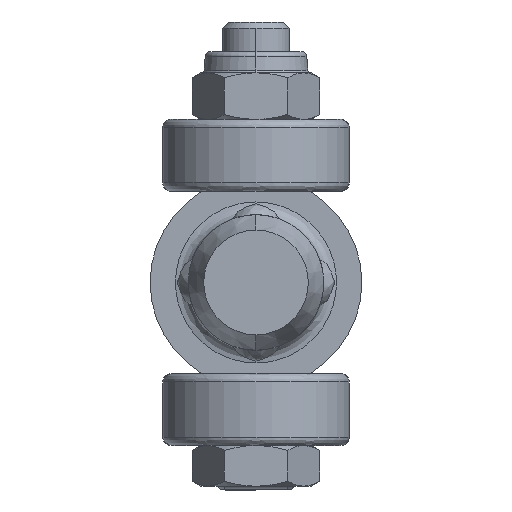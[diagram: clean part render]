
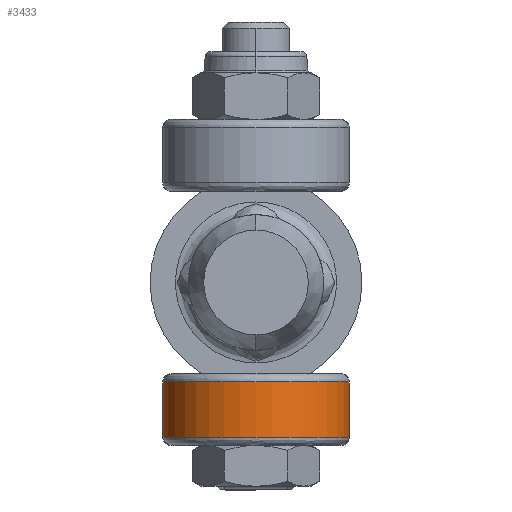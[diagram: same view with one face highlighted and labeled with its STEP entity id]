
A CAD part, front view. The second image highlights one B-rep face of the part: STEP entity #3433.
In plain terms, the highlighted cylindrical face has radius 11 mm (diameter 22 mm), a partial arc.
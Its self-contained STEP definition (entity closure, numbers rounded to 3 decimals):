
#195 = DIRECTION ( 'NONE',  ( 0., 0., 1. ) ) ;
#305 = LINE ( 'NONE', #1693, #9067 ) ;
#495 = ORIENTED_EDGE ( 'NONE', *, *, #3231, .T. ) ;
#740 = CIRCLE ( 'NONE', #5758, 11. ) ;
#1693 = CARTESIAN_POINT ( 'NONE',  ( 0., 10.75, 11. ) ) ;
#1717 = DIRECTION ( 'NONE',  ( 0., 1., 0. ) ) ;
#2405 = EDGE_CURVE ( 'NONE', #4975, #8073, #740, .T. ) ;
#2619 = EDGE_LOOP ( 'NONE', ( #5729, #495, #4439, #5843 ) ) ;
#2656 = CARTESIAN_POINT ( 'NONE',  ( 0., 11.75, 11. ) ) ;
#3084 = CARTESIAN_POINT ( 'NONE',  ( 0., 18.25, -11. ) ) ;
#3231 = EDGE_CURVE ( 'NONE', #4488, #5892, #8461, .T. ) ;
#3433 = ADVANCED_FACE ( 'NONE', ( #3955 ), #8112, .T. ) ;
#3866 = DIRECTION ( 'NONE',  ( 0., 1., 0. ) ) ;
#3955 = FACE_OUTER_BOUND ( 'NONE', #2619, .T. ) ;
#4439 = ORIENTED_EDGE ( 'NONE', *, *, #9037, .T. ) ;
#4488 = VERTEX_POINT ( 'NONE', #10316 ) ;
#4559 = CARTESIAN_POINT ( 'NONE',  ( 0., 10.75, -11. ) ) ;
#4866 = CARTESIAN_POINT ( 'NONE',  ( 0., 18.25, 0. ) ) ;
#4975 = VERTEX_POINT ( 'NONE', #7190 ) ;
#5729 = ORIENTED_EDGE ( 'NONE', *, *, #10047, .F. ) ;
#5758 = AXIS2_PLACEMENT_3D ( 'NONE', #4866, #8308, #8076 ) ;
#5843 = ORIENTED_EDGE ( 'NONE', *, *, #2405, .T. ) ;
#5892 = VERTEX_POINT ( 'NONE', #2656 ) ;
#6210 = VECTOR ( 'NONE', #3866, 1000. ) ;
#6945 = AXIS2_PLACEMENT_3D ( 'NONE', #7212, #9583, #10330 ) ;
#7190 = CARTESIAN_POINT ( 'NONE',  ( 0., 18.25, 11. ) ) ;
#7212 = CARTESIAN_POINT ( 'NONE',  ( 0., 10.75, 0. ) ) ;
#7598 = LINE ( 'NONE', #4559, #6210 ) ;
#7783 = AXIS2_PLACEMENT_3D ( 'NONE', #8922, #1717, #195 ) ;
#8073 = VERTEX_POINT ( 'NONE', #3084 ) ;
#8076 = DIRECTION ( 'NONE',  ( 0., 0., 1. ) ) ;
#8112 = CYLINDRICAL_SURFACE ( 'NONE', #6945, 11. ) ;
#8308 = DIRECTION ( 'NONE',  ( 0., -1., 0. ) ) ;
#8461 = CIRCLE ( 'NONE', #7783, 11. ) ;
#8922 = CARTESIAN_POINT ( 'NONE',  ( 0., 11.75, 0. ) ) ;
#9037 = EDGE_CURVE ( 'NONE', #5892, #4975, #305, .T. ) ;
#9067 = VECTOR ( 'NONE', #9183, 1000. ) ;
#9183 = DIRECTION ( 'NONE',  ( 0., 1., 0. ) ) ;
#9583 = DIRECTION ( 'NONE',  ( 0., 1., 0. ) ) ;
#10047 = EDGE_CURVE ( 'NONE', #4488, #8073, #7598, .T. ) ;
#10316 = CARTESIAN_POINT ( 'NONE',  ( 0., 11.75, -11. ) ) ;
#10330 = DIRECTION ( 'NONE',  ( 0., 0., 1. ) ) ;
